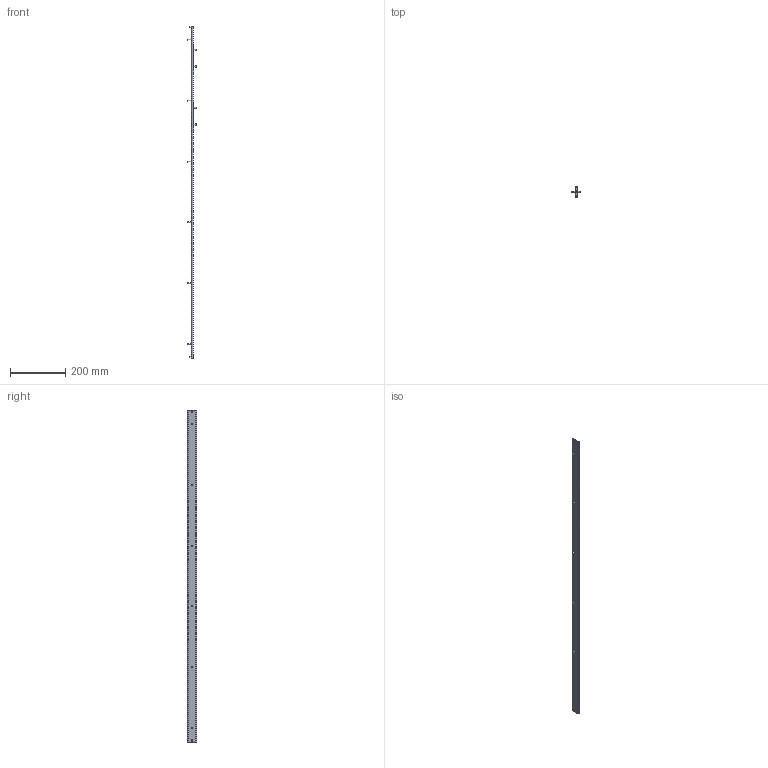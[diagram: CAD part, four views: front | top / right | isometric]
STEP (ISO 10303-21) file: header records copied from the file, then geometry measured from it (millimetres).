
FILE_DESCRIPTION((''),'2;1');
FILE_NAME('R:\Engineering\Distribution Website 3D\0115RC\DS0115RC\DS0115-0120RC.stp','2014-06-24T16:46:13',('kchown'),(''),'Autodesk Inventor 2012','Autodesk Inventor 2012','');
FILE_SCHEMA(('AUTOMOTIVE_DESIGN { 1 0 10303 214 1 1 1 1 }'));
Length unit declared in the file: millimetre
Products named in the file (6): DS0115-0120RC; M4x12 Pemstud; 23094241; 22409710; DS0115-CAS-RC
Assembly tree (13 placements, depth 2):
  DS0115-0120RC
    DS0115-0120RC
    M4x12 Pemstud  x6
    23094241  x2
    22409710  x2
    DS0115-CAS-RC  x2
Bounding box: 32.02 x 35.3 x 1200 mm (x, y, z)
Volume: 141205.7 mm3; surface area: 140937.2 mm2
Topology: 13 solids, 13 shells, 1296 faces, 3550 edges, 2366 vertices
Faces by surface type: plane 570, bspline 544, cylinder 134, cone 40, torus 8
Full cylindrical faces by diameter (mm): 3.571 x2, 4 x14, 4.5 x4, 5 x4, 6 x12, 8.4 x2
Entity records: 21925 total; most frequent: CARTESIAN_POINT 6755, ORIENTED_EDGE 3560, DIRECTION 2204, EDGE_CURVE 1780, VERTEX_POINT 1204, VECTOR 1018, LINE 1018, EDGE_LOOP 756
